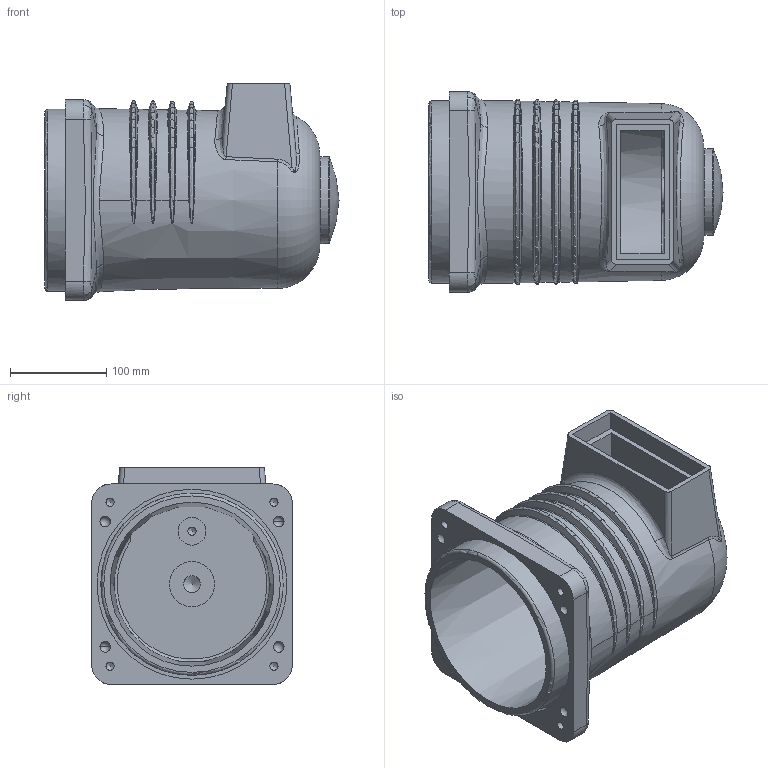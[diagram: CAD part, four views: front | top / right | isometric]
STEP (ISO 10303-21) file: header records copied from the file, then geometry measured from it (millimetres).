
FILE_DESCRIPTION(('STEP AP203'), '1');
FILE_NAME('ﾄ-ﾗﾝﾀﾇ-5-75-2000', '', ('UNSPECIFIED'), ('UNSPECIFIED'), 'ASCON STEP Converter 1.6', 'ASCON Math Kernel', '');
FILE_SCHEMA(('CONFIG_CONTROL_DESIGN'));
Length unit declared in the file: millimetre
Products named in the file (1): ﾄ-ﾗﾝﾀﾇ-5-75-2000
Bounding box: 305 x 208 x 225 mm (x, y, z)
Volume: 2966929.7 mm3; surface area: 416186.6 mm2
Topology: 1 solids, 1 shells, 127 faces, 312 edges, 188 vertices
Faces by surface type: bspline 49, plane 23, cone 20, cylinder 19, torus 9, sphere 7
Full cylindrical faces by diameter (mm): 8.5 x5, 17.5 x1, 29 x1, 47 x1, 90 x1, 189 x1, 197 x1
Entity records: 14943 total; most frequent: CARTESIAN_POINT 11593, ORIENTED_EDGE 530, DIRECTION 356, EDGE_CURVE 265, VERTEX_POINT 175, EDGE_LOOP 158, AXIS2_PLACEMENT_3D 150, B_SPLINE_CURVE_WITH_KNOTS 133
